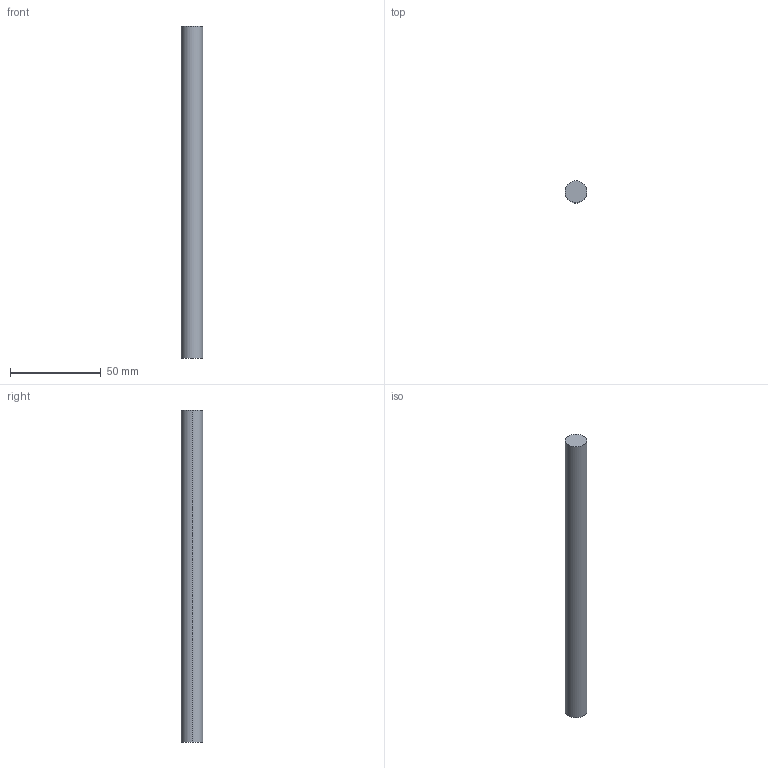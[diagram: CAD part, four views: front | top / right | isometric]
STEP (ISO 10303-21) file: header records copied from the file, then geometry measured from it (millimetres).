
FILE_DESCRIPTION (( 'STEP AP214' ), '1' );
FILE_NAME ('Innenschub H182 - S18_S19 - 300.step', '2010-09-07T14:56:00', ( 'grass' ), ( '' ), 'SwSTEP 2.0', 'SolidWorks 2010', '' );
FILE_SCHEMA (( 'AUTOMOTIVE_DESIGN' ));
Length unit declared in the file: millimetre
Products named in the file (1): Innenschub H182 - S18_S19 - 300
Bounding box: 12 x 12 x 183 mm (x, y, z)
Volume: 20696.8 mm3; surface area: 7125.1 mm2
Topology: 1 solids, 1 shells, 4 faces, 6 edges, 4 vertices
Faces by surface type: cylinder 2, plane 2
Entity records: 128 total; most frequent: DIRECTION 20, CARTESIAN_POINT 15, ORIENTED_EDGE 12, AXIS2_PLACEMENT_3D 9, EDGE_CURVE 6, FACE_OUTER_BOUND 4, EDGE_LOOP 4, CIRCLE 4
